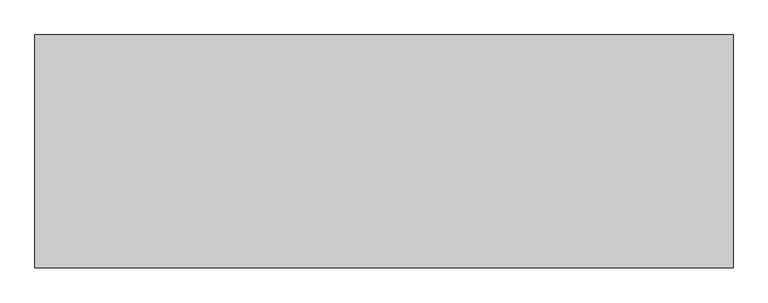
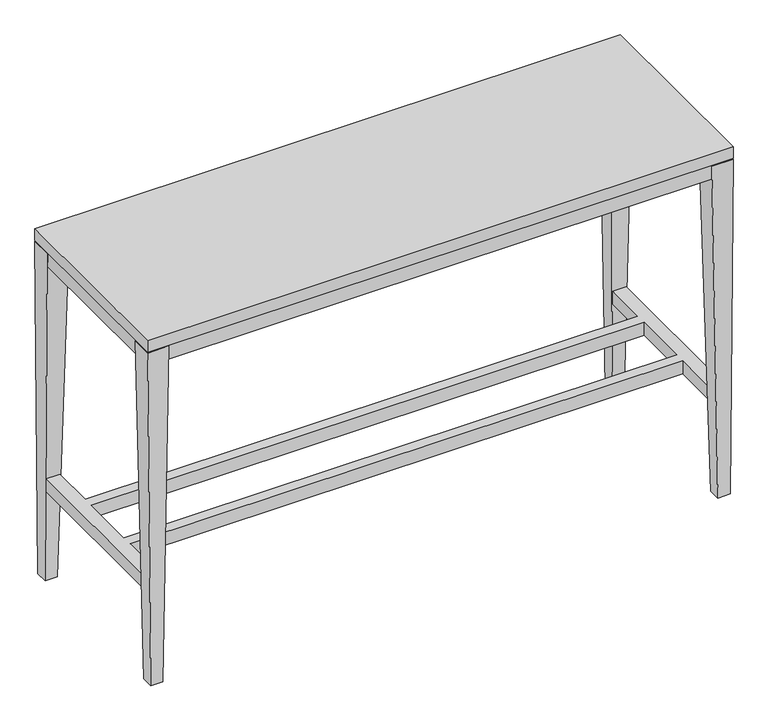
"""IFC4 building model written with IfcOpenShell, lengths in millimetres: furniture geometry, Coalesse_AM_Table_Ocassional_Passerelle : 16D x 48W x 30H."""

from ifc_helpers import new_model, si_unit, frame, origin, place, context, project, spatial, polyline, outline, extrude, faceted_brep, source, transform, mapped, element, save


def furniture_429d2503(model_context):
    return source(origin(), model_context, "Body", "SolidModel", [
        faceted_brep([(1219.2, -406.4, 762.0), (1219.2, -406.4, 736.6000242), (1219.2, 0.0, 736.6000242), (1219.2, 0.0, 762.0), (0.0, -406.4, 762.0), (0.0, 0.0, 762.0), (0.0, 0.0, 736.6000242), (0.0, -406.4, 736.6000242), (44.4501938, -44.4499758, 736.6000242), (1.5876938, -44.4499758, 736.6000242), (1.5876938, -361.9500242, 736.6000242), (44.4501938, -361.9500242, 736.6000242), (44.4501938, -404.8125, 736.6000242), (1174.7498062, -404.8125, 736.6000242), (1174.7498062, -361.9500242, 736.6000242), (1217.6123062, -361.9500242, 736.6000242), (1217.6123062, -44.4499758, 736.6000242), (1174.7498062, -44.4499758, 736.6000242), (1174.7498062, -1.5874758, 736.6000242), (44.4501938, -1.5874758, 736.6000242), (44.4501938, -44.4499758, 704.85), (44.4501938, -1.5874758, 704.85), (1174.7498062, -1.5874758, 704.85), (1174.7498062, -44.4499758, 704.85), (1217.6123062, -44.4499758, 704.85), (1217.6123062, -361.9500242, 704.85), (1174.7498062, -361.9500242, 704.85), (1174.7498062, -404.8125, 704.85), (44.4501938, -404.8125, 704.85), (44.4501938, -361.9500242, 704.85), (1.5876938, -361.9500242, 704.85), (1.5876938, -44.4499758, 704.85)], [[[0, 1, 2, 3]], [[4, 5, 6, 7]], [[1, 0, 4, 7]], [[2, 1, 7, 6], [8, 9, 10, 11, 12, 13, 14, 15, 16, 17, 18, 19]], [[3, 2, 6, 5]], [[0, 3, 5, 4]], [[20, 21, 22, 23, 24, 25, 26, 27, 28, 29, 30, 31]], [[20, 31, 9, 8]], [[31, 30, 10, 9]], [[30, 29, 11, 10]], [[29, 28, 12, 11]], [[28, 27, 13, 12]], [[27, 26, 14, 13]], [[26, 25, 15, 14]], [[25, 24, 16, 15]], [[24, 23, 17, 16]], [[23, 22, 18, 17]], [[22, 21, 19, 18]], [[21, 20, 8, 19]]]),
        extrude(outline(polyline([(34.2304688, -30.7574249), (34.2304688, -122.2375969), (1184.9695313, -122.2375969), (1184.9695313, -30.7574249), (1213.5445313, -30.7574249), (1213.5445313, -375.6424782), (1184.9695313, -375.6424782), (1184.9695313, -284.1625969), (34.2304688, -284.1625969), (34.2304688, -375.6424782), (5.6554688, -375.6424782), (5.6554688, -30.7574249), (34.2304688, -30.7574249)]), holes=[polyline([(1184.9695313, -144.4624031), (34.2304688, -144.4624031), (34.2304688, -261.9375), (1184.9695313, -261.9375), (1184.9695313, -144.4624031)])]), frame((0.0, 0.0, 199.9742037), z_axis=(0.0, 0.0, 1.0), x_axis=(1.0, 0.0, 0.0)), (0.0, 0.0, 1.0), 28.575),
        faceted_brep([(1212.8498062, -381.0, 0.0), (1212.8498062, -406.4, 0.0), (1187.4501938, -406.4, 0.0), (1187.4501938, -381.0, 0.0), (1219.2, -361.9500242, 735.0125121), (1174.7498062, -361.9500242, 735.0125121), (1174.7498062, -406.4, 735.0125121), (1219.2, -406.4, 735.0125121)], [[[0, 1, 2, 3]], [[4, 5, 6, 7]], [[4, 7, 1, 0]], [[7, 6, 2, 1]], [[6, 5, 3, 2]], [[5, 4, 0, 3]]]),
        faceted_brep([(6.3501938, -381.0, 0.0), (31.7498062, -381.0, 0.0), (31.7498062, -406.4, 0.0), (6.3501938, -406.4, 0.0), (0.0, -361.9500242, 735.0125121), (0.0, -406.4, 735.0125121), (44.4501938, -406.4, 735.0125121), (44.4501938, -361.9500242, 735.0125121)], [[[0, 1, 2, 3]], [[4, 5, 6, 7]], [[4, 7, 1, 0]], [[7, 6, 2, 1]], [[6, 5, 3, 2]], [[5, 4, 0, 3]]]),
        faceted_brep([(1212.8498062, -25.3999758, 0.0), (1187.4501938, -25.3999758, 0.0), (1187.4501938, 0.0, 0.0), (1212.8498062, 0.0, 0.0), (1219.2, -44.4499758, 735.0125121), (1219.2, 0.0, 735.0125121), (1174.7498062, 0.0, 735.0125121), (1174.7498062, -44.4499758, 735.0125121)], [[[0, 1, 2, 3]], [[4, 5, 6, 7]], [[4, 7, 1, 0]], [[7, 6, 2, 1]], [[6, 5, 3, 2]], [[5, 4, 0, 3]]]),
        faceted_brep([(6.3501938, -25.3999758, 0.0), (6.3501938, 0.0, 0.0), (31.7498062, 0.0, 0.0), (31.7498062, -25.3999758, 0.0), (0.0, -44.4499758, 735.0125121), (44.4501938, -44.4499758, 735.0125121), (44.4501938, 0.0, 735.0125121), (0.0, 0.0, 735.0125121)], [[[0, 1, 2, 3]], [[4, 5, 6, 7]], [[4, 7, 1, 0]], [[7, 6, 2, 1]], [[6, 5, 3, 2]], [[5, 4, 0, 3]]]),
    ])


if __name__ == "__main__":
    model = new_model("IFC4")
    model_context = context("Model", 3, world=origin())
    ifc_project = project(units=[si_unit("LENGTHUNIT", "METRE", prefix="MILLI")], contexts=[model_context])
    site = spatial("IfcSite", under=ifc_project)
    building = spatial("IfcBuilding", under=site)
    placement = place(None, origin())
    furniture_shape = furniture_429d2503(model_context)
    element("IfcFurniture", 1, ObjectType="Coalesse_AM_Table_Ocassional_Passerelle : 16D x 48W x 30H", at=placement, inside=building, context=model_context, shape_type="MappedRepresentation", body=[
        mapped(furniture_shape, transform((0.0, 0.0, 0.0), x_axis=(1.0, 0.0, 0.0), y_axis=(0.0, 1.0, 0.0), z_axis=(0.0, 0.0, 1.0))),
    ])
    save(model, "model.ifc")
